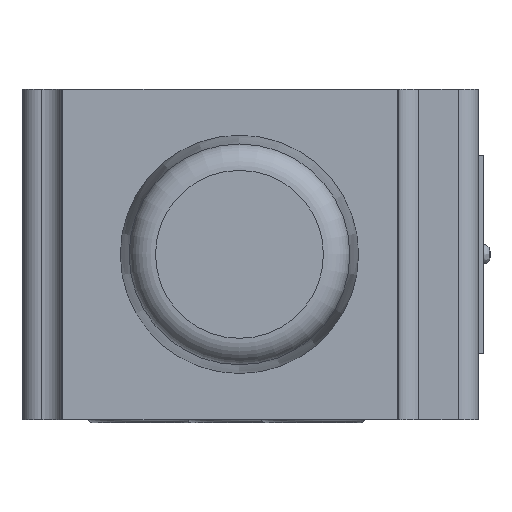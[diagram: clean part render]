
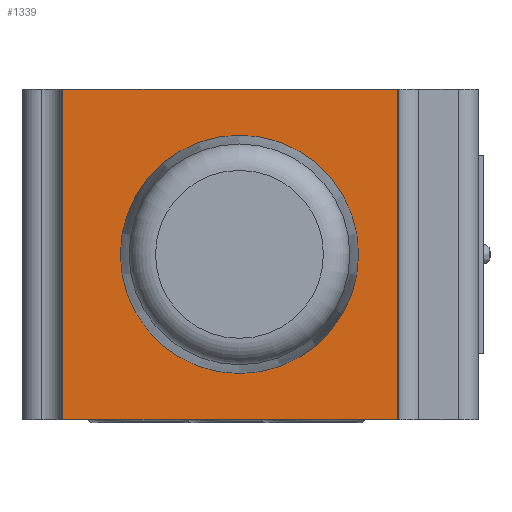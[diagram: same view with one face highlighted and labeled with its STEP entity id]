
A CAD part, left-side view. The second image highlights one B-rep face of the part: STEP entity #1339.
In plain terms, the highlighted planar face has unit normal (-1, 0, 0).
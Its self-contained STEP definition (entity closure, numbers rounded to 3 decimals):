
#634=PLANE('',#7466);
#1339=ADVANCED_FACE('',(#1790),#634,.F.);
#1790=FACE_OUTER_BOUND('',#2357,.T.);
#2357=EDGE_LOOP('',(#4470,#4471,#4472,#4473));
#2897=LINE('',#27851,#3175);
#2921=LINE('',#27930,#3199);
#2936=LINE('',#27998,#3214);
#2950=LINE('',#28235,#3228);
#3175=VECTOR('',#8638,1.);
#3199=VECTOR('',#8716,1.);
#3214=VECTOR('',#8773,1.);
#3228=VECTOR('',#8935,1.);
#4470=ORIENTED_EDGE('',*,*,#6348,.T.);
#4471=ORIENTED_EDGE('',*,*,#6319,.F.);
#4472=ORIENTED_EDGE('',*,*,#6422,.F.);
#4473=ORIENTED_EDGE('',*,*,#6280,.T.);
#5539=VERTEX_POINT('',#27850);
#5540=VERTEX_POINT('',#27852);
#5566=VERTEX_POINT('',#27927);
#5567=VERTEX_POINT('',#27929);
#6280=EDGE_CURVE('',#5540,#5539,#2897,.T.);
#6319=EDGE_CURVE('',#5567,#5566,#2921,.T.);
#6348=EDGE_CURVE('',#5539,#5566,#2936,.T.);
#6422=EDGE_CURVE('',#5540,#5567,#2950,.T.);
#7466=AXIS2_PLACEMENT_3D('',#28241,#8943,#8944);
#8638=DIRECTION('',(0.,0.,-1.));
#8716=DIRECTION('',(0.,0.,-1.));
#8773=DIRECTION('',(0.,-1.,0.));
#8935=DIRECTION('',(0.,-1.,0.));
#8943=DIRECTION('',(1.,0.,0.));
#8944=DIRECTION('',(0.,1.,0.));
#27850=CARTESIAN_POINT('',(0.,26.729,-25.));
#27851=CARTESIAN_POINT('',(0.,26.729,25.));
#27852=CARTESIAN_POINT('',(0.,26.729,25.));
#27927=CARTESIAN_POINT('',(0.,-23.928,-25.));
#27929=CARTESIAN_POINT('',(0.,-23.928,25.));
#27930=CARTESIAN_POINT('',(0.,-23.928,25.));
#27998=CARTESIAN_POINT('',(0.,0.,-25.));
#28235=CARTESIAN_POINT('',(0.,0.,25.));
#28241=CARTESIAN_POINT('',(0.,0.,25.));
